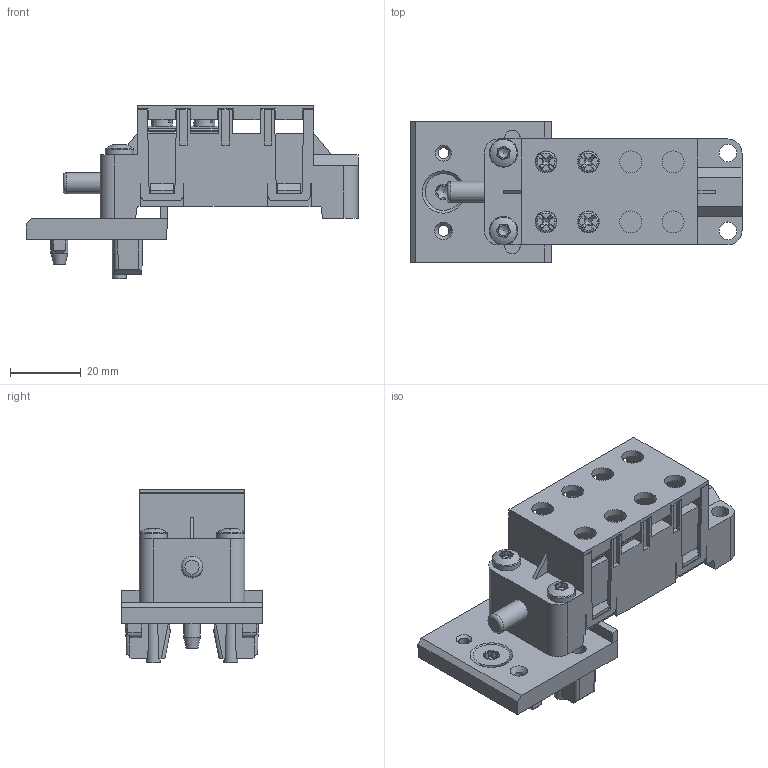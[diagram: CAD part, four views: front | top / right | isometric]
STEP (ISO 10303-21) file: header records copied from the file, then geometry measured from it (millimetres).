
FILE_DESCRIPTION(('STEP AP214'), '1');
FILE_NAME('ﾂﾂﾏ11-10ﾁ-20ﾕ310', '', ('UNSPECIFIED'), ('UNSPECIFIED'), 'ASCON STEP Converter 1.6', 'ASCON Math Kernel', '');
FILE_SCHEMA(('AUTOMOTIVE_DESIGN { 1 0 10303 214 3 1 1}'));
Length unit declared in the file: millimetre
Products named in the file (1): 襠窏.301344.061
Bounding box: 94 x 40 x 49 mm (x, y, z)
Volume: 54710.1 mm3; surface area: 26313.8 mm2
Topology: 11 solids, 12 shells, 769 faces, 2124 edges, 1379 vertices
Faces by surface type: plane 533, cylinder 118, cone 48, bspline 40, torus 28, sphere 2
Full cylindrical faces by diameter (mm): 2.45 x4, 3.1 x8, 4 x4, 4.4 x2, 4.5 x1, 4.8 x1, 5 x2, 6 x1, 6.2 x10, 8 x2, 10.4 x1
Entity records: 37860 total; most frequent: CARTESIAN_POINT 12735, ORIENTED_EDGE 4098, DIRECTION 3596, EDGE_CURVE 2049, VERTEX_POINT 1376, LINE 1242, VECTOR 1242, AXIS2_PLACEMENT_3D 1177
